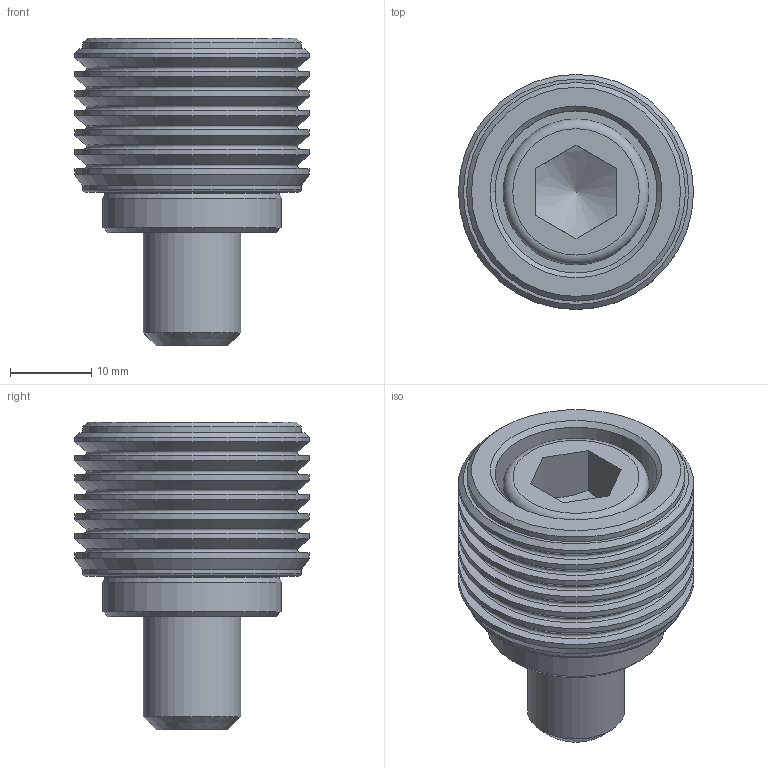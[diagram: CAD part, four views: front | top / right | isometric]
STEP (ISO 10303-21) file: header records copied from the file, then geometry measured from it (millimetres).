
FILE_DESCRIPTION(('STEP AP214'), '1');
FILE_NAME('BB.VS.100.51.019 捘', '', ('UNSPECIFIED'), ('UNSPECIFIED'), 'C3D Converter', 'C3D Toolkit', '');
FILE_SCHEMA(('AUTOMOTIVE_DESIGN { 1 0 10303 214 3 1 1}'));
Length unit declared in the file: millimetre
Products named in the file (1): BB.VS.100.51.019 СБ
Bounding box: 29 x 29 x 38 mm (x, y, z)
Volume: 12931.8 mm3; surface area: 7298.3 mm2
Topology: 1 solids, 1 shells, 61 faces, 114 edges, 67 vertices
Faces by surface type: plane 20, cone 17, cylinder 14, torus 10
Full cylindrical faces by diameter (mm): 12 x1, 13 x1, 18 x1, 20 x1, 22 x1, 27 x2, 29 x7
Entity records: 2067 total; most frequent: CARTESIAN_POINT 467, DIRECTION 242, ORIENTED_EDGE 144, AXIS2_PLACEMENT_3D 115, EDGE_LOOP 114, FACE_OUTER_BOUND 80, EDGE_CURVE 72, VERTEX_POINT 66
